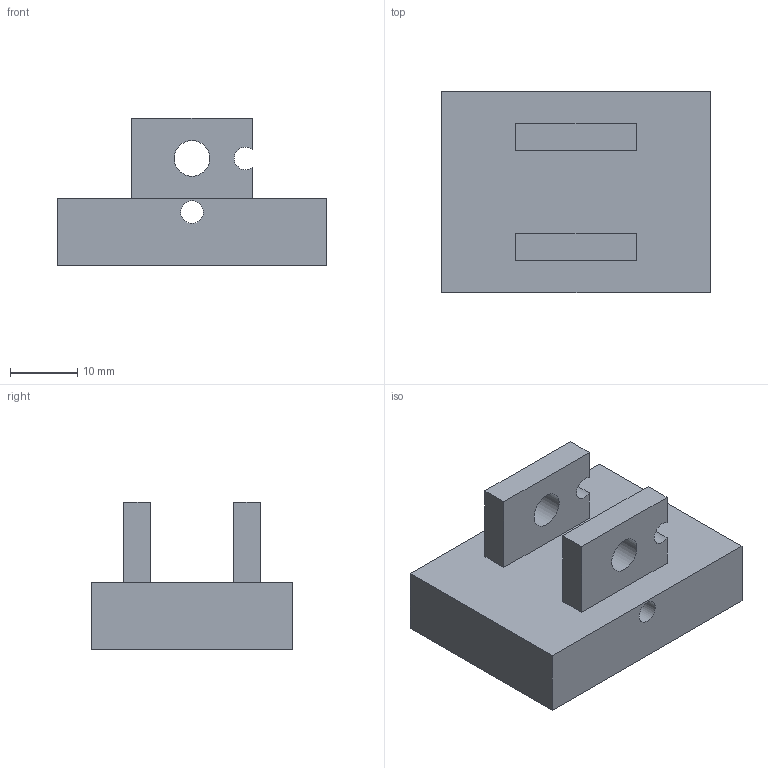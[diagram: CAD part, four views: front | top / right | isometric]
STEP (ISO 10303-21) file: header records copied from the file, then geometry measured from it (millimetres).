
FILE_DESCRIPTION(('Open CASCADE Model'),'2;1');
FILE_NAME('CP-HINGE-CLEVIS','2026-11-15T22:30:29',('Author'),( 'Open CASCADE'),'Open CASCADE STEP processor 8.0','build123d', 'Unknown');
FILE_SCHEMA(('AUTOMOTIVE_DESIGN { 1 0 10303 214 1 1 1 1 }'));
Length unit declared in the file: millimetre
Products named in the file (1): CP-HINGE-CLEVIS
Bounding box: 40 x 30 x 22 mm (x, y, z)
Volume: 13217.3 mm3; surface area: 5210.1 mm2
Topology: 1 solids, 1 shells, 23 faces, 57 edges, 38 vertices
Faces by surface type: plane 18, cylinder 5
Full cylindrical faces by diameter (mm): 3.4 x1, 5.3 x2
Entity records: 1466 total; most frequent: CARTESIAN_POINT 301, DIRECTION 211, LINE 143, VECTOR 143, ORIENTED_EDGE 114, PCURVE 114, DEFINITIONAL_REPRESENTATION 114, EDGE_CURVE 57
